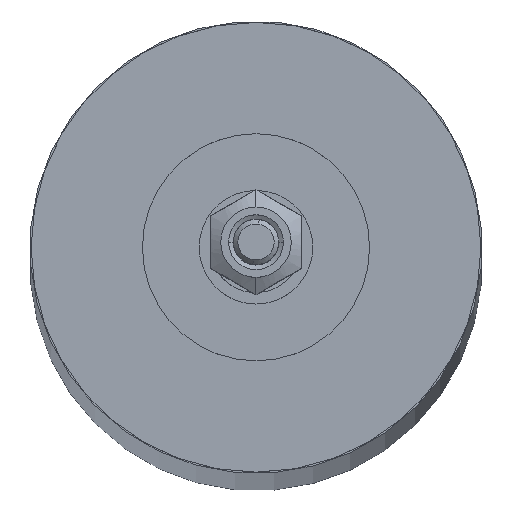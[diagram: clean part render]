
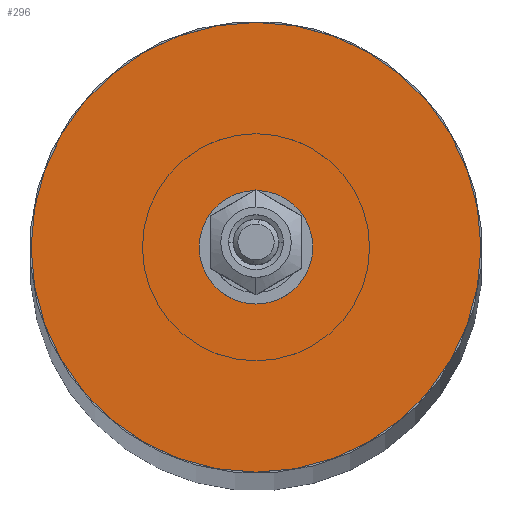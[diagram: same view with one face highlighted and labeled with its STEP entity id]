
A CAD part, top view. The second image highlights one B-rep face of the part: STEP entity #296.
In plain terms, the highlighted planar face has unit normal (0, 0, 1).
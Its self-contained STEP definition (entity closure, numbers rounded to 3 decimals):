
#296=ADVANCED_FACE('',(#479,#480),#481,.T.);
#479=FACE_OUTER_BOUND('',#694,.T.);
#480=FACE_BOUND('',#695,.T.);
#481=PLANE('',#696);
#694=EDGE_LOOP('',(#1263,#1264));
#695=EDGE_LOOP('',(#1265,#1266));
#696=AXIS2_PLACEMENT_3D('',#1267,#1268,#1269);
#1263=ORIENTED_EDGE('',*,*,#1581,.T.);
#1264=ORIENTED_EDGE('',*,*,#1613,.T.);
#1265=ORIENTED_EDGE('',*,*,#1612,.T.);
#1266=ORIENTED_EDGE('',*,*,#1583,.T.);
#1267=CARTESIAN_POINT('',(-0.854,-4.301,12.441));
#1268=DIRECTION('',(0.0,0.0,1.0));
#1269=DIRECTION('',(1.0,0.0,0.0));
#1581=EDGE_CURVE('',#1857,#1861,#1863,.T.);
#1583=EDGE_CURVE('',#1867,#1864,#1868,.T.);
#1612=EDGE_CURVE('',#1864,#1867,#1914,.T.);
#1613=EDGE_CURVE('',#1861,#1857,#1915,.T.);
#1857=VERTEX_POINT('',#2458);
#1861=VERTEX_POINT('',#2463);
#1863=CIRCLE('',#2466,9.9);
#1864=VERTEX_POINT('',#2467);
#1867=VERTEX_POINT('',#2471);
#1868=CIRCLE('',#2472,2.5);
#1914=CIRCLE('',#2527,2.5);
#1915=CIRCLE('',#2528,9.9);
#2458=CARTESIAN_POINT('',(-0.854,-9.251,12.441));
#2463=CARTESIAN_POINT('',(-0.854,10.549,12.441));
#2466=AXIS2_PLACEMENT_3D('',#2827,#2828,#2829);
#2467=CARTESIAN_POINT('',(-0.854,-1.851,12.441));
#2471=CARTESIAN_POINT('',(-0.854,3.149,12.441));
#2472=AXIS2_PLACEMENT_3D('',#2831,#2832,#2833);
#2527=AXIS2_PLACEMENT_3D('',#2900,#2901,#2902);
#2528=AXIS2_PLACEMENT_3D('',#2903,#2904,#2905);
#2827=CARTESIAN_POINT('',(-0.854,0.649,12.441));
#2828=DIRECTION('',(0.0,0.0,1.0));
#2829=DIRECTION('',(0.0,-1.0,0.0));
#2831=CARTESIAN_POINT('',(-0.854,0.649,12.441));
#2832=DIRECTION('',(0.0,0.0,-1.0));
#2833=DIRECTION('',(0.0,-1.0,0.0));
#2900=CARTESIAN_POINT('',(-0.854,0.649,12.441));
#2901=DIRECTION('',(0.0,0.0,-1.0));
#2902=DIRECTION('',(0.0,-1.0,0.0));
#2903=CARTESIAN_POINT('',(-0.854,0.649,12.441));
#2904=DIRECTION('',(0.0,0.0,1.0));
#2905=DIRECTION('',(0.0,-1.0,0.0));
